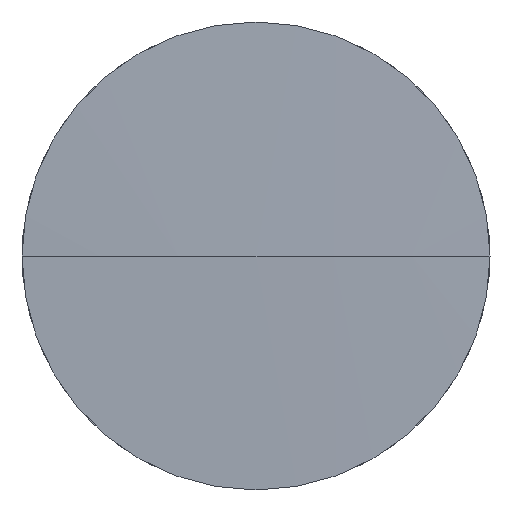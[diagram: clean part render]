
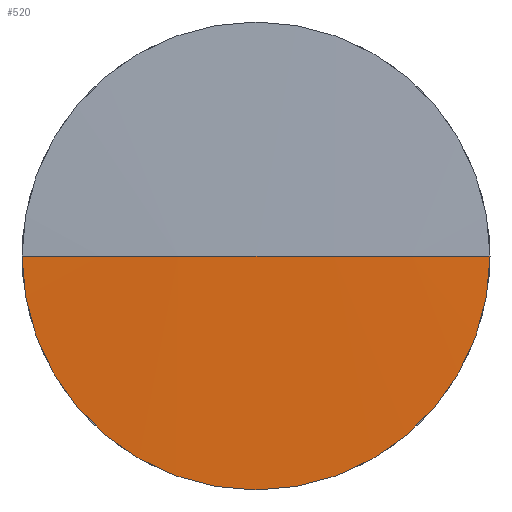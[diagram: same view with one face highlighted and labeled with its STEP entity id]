
A CAD part, left-side view. The second image highlights one B-rep face of the part: STEP entity #520.
In plain terms, the highlighted spherical face has radius 630 mm.
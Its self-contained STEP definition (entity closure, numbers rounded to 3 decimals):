
#9 = ORIENTED_EDGE ( 'NONE', *, *, #23, .T. ) ;
#23 = EDGE_CURVE ( 'NONE', #827, #345, #568, .T. ) ;
#61 = CIRCLE ( 'NONE', #518, 20. ) ;
#78 = VERTEX_POINT ( 'NONE', #406 ) ;
#103 = EDGE_LOOP ( 'NONE', ( #9, #833, #314, #587 ) ) ;
#160 = AXIS2_PLACEMENT_3D ( 'NONE', #540, #730, #409 ) ;
#164 = VERTEX_POINT ( 'NONE', #484 ) ;
#232 = DIRECTION ( 'NONE',  ( 0., 0., 1. ) ) ;
#247 = AXIS2_PLACEMENT_3D ( 'NONE', #441, #562, #435 ) ;
#298 = AXIS2_PLACEMENT_3D ( 'NONE', #743, #372, #672 ) ;
#307 = CARTESIAN_POINT ( 'NONE',  ( -73.682, 0., 0. ) ) ;
#312 = CIRCLE ( 'NONE', #160, 630. ) ;
#314 = ORIENTED_EDGE ( 'NONE', *, *, #699, .F. ) ;
#345 = VERTEX_POINT ( 'NONE', #496 ) ;
#363 = DIRECTION ( 'NONE',  ( -1., 0., 0. ) ) ;
#372 = DIRECTION ( 'NONE',  ( 0., 0., 1. ) ) ;
#376 = CIRCLE ( 'NONE', #298, 630. ) ;
#406 = CARTESIAN_POINT ( 'NONE',  ( -74., 0., 0. ) ) ;
#409 = DIRECTION ( 'NONE',  ( 0., 1., 0. ) ) ;
#435 = DIRECTION ( 'NONE',  ( 0., 1., 0. ) ) ;
#441 = CARTESIAN_POINT ( 'NONE',  ( 556., 0., 0. ) ) ;
#473 = DIRECTION ( 'NONE',  ( 0., 0., 1. ) ) ;
#484 = CARTESIAN_POINT ( 'NONE',  ( -73.682, 20., 0. ) ) ;
#496 = CARTESIAN_POINT ( 'NONE',  ( -73.682, -20., 0. ) ) ;
#518 = AXIS2_PLACEMENT_3D ( 'NONE', #307, #363, #232 ) ;
#520 = ADVANCED_FACE ( 'NONE', ( #627 ), #635, .T. ) ;
#524 = CARTESIAN_POINT ( 'NONE',  ( -73.682, 0., -20. ) ) ;
#540 = CARTESIAN_POINT ( 'NONE',  ( 556., 0., 0. ) ) ;
#562 = DIRECTION ( 'NONE',  ( 0., 0., -1. ) ) ;
#568 = CIRCLE ( 'NONE', #637, 20. ) ;
#587 = ORIENTED_EDGE ( 'NONE', *, *, #602, .T. ) ;
#602 = EDGE_CURVE ( 'NONE', #164, #827, #61, .T. ) ;
#627 = FACE_OUTER_BOUND ( 'NONE', #103, .T. ) ;
#634 = CARTESIAN_POINT ( 'NONE',  ( -73.682, 0., 0. ) ) ;
#635 = SPHERICAL_SURFACE ( 'NONE', #247, 630. ) ;
#637 = AXIS2_PLACEMENT_3D ( 'NONE', #634, #788, #473 ) ;
#672 = DIRECTION ( 'NONE',  ( 1., 0., 0. ) ) ;
#695 = EDGE_CURVE ( 'NONE', #345, #78, #312, .T. ) ;
#699 = EDGE_CURVE ( 'NONE', #164, #78, #376, .T. ) ;
#730 = DIRECTION ( 'NONE',  ( 0., 0., -1. ) ) ;
#743 = CARTESIAN_POINT ( 'NONE',  ( 556., 0., 0. ) ) ;
#788 = DIRECTION ( 'NONE',  ( -1., 0., 0. ) ) ;
#827 = VERTEX_POINT ( 'NONE', #524 ) ;
#833 = ORIENTED_EDGE ( 'NONE', *, *, #695, .T. ) ;
